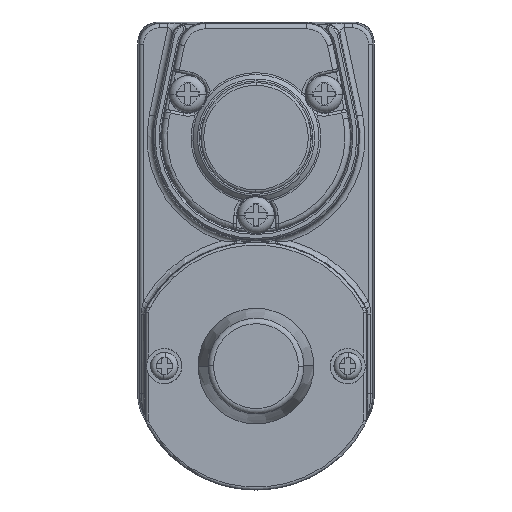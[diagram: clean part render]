
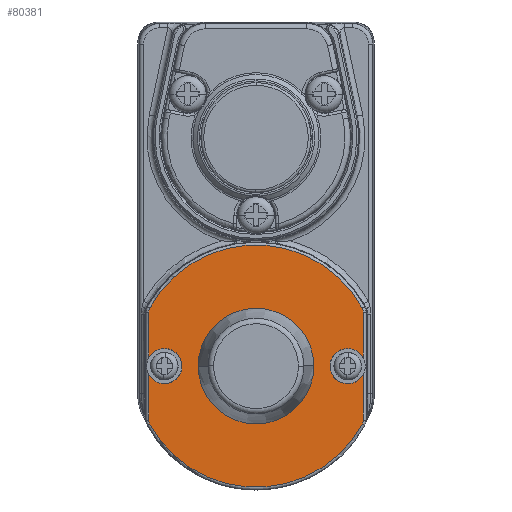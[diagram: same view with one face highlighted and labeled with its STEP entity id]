
A CAD part, left-side view. The second image highlights one B-rep face of the part: STEP entity #80381.
In plain terms, the highlighted planar face has unit normal (-1, 0, 0).
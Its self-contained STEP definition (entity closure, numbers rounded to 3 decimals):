
#78974=CARTESIAN_POINT('',(-4.5,0.5,-20.543));
#78981=DIRECTION('',(0.,0.,1.));
#78982=VECTOR('',#78981,8.354);
#78983=CARTESIAN_POINT('',(-4.5,0.5,-20.543));
#78984=LINE('',#78983,#78982);
#78989=DIRECTION('',(0.,0.,1.));
#78990=VECTOR('',#78989,8.354);
#78991=CARTESIAN_POINT('',(-4.5,0.5,-31.811));
#78992=LINE('',#78991,#78990);
#78993=CARTESIAN_POINT('',(-4.5,36.651,-22.));
#78994=DIRECTION('',(-1.,0.,0.));
#78995=DIRECTION('',(0.,-1.,0.011));
#78996=AXIS2_PLACEMENT_3D('',#78993,#78994,#78995);
#78998=CARTESIAN_POINT('',(-4.5,38.,-12.189));
#78999=DIRECTION('',(1.,0.,0.));
#79000=DIRECTION('',(0.,1.,0.));
#79001=AXIS2_PLACEMENT_3D('',#78998,#78999,#79000);
#79003=CARTESIAN_POINT('',(-4.5,20.,-22.));
#79004=DIRECTION('',(1.,0.,0.));
#79005=DIRECTION('',(0.,0.878,0.479));
#79006=AXIS2_PLACEMENT_3D('',#79003,#79004,#79005);
#79008=CARTESIAN_POINT('',(-4.5,2.,-12.189));
#79009=DIRECTION('',(1.,0.,0.));
#79010=DIRECTION('',(0.,-0.878,0.479));
#79011=AXIS2_PLACEMENT_3D('',#79008,#79009,#79010);
#79013=CARTESIAN_POINT('',(-4.5,3.349,-22.));
#79014=DIRECTION('',(-1.,0.,0.));
#79015=DIRECTION('',(0.,-0.89,0.455));
#79016=AXIS2_PLACEMENT_3D('',#79013,#79014,#79015);
#79018=CARTESIAN_POINT('',(-4.5,3.349,-22.));
#79019=DIRECTION('',(-1.,0.,0.));
#79020=DIRECTION('',(0.,1.,-0.011));
#79021=AXIS2_PLACEMENT_3D('',#79018,#79019,#79020);
#79023=CARTESIAN_POINT('',(-4.5,2.,-31.811));
#79024=DIRECTION('',(1.,0.,0.));
#79025=DIRECTION('',(0.,-1.,0.));
#79026=AXIS2_PLACEMENT_3D('',#79023,#79024,#79025);
#79028=CARTESIAN_POINT('',(-4.5,20.,-22.));
#79029=DIRECTION('',(1.,0.,0.));
#79030=DIRECTION('',(0.,-0.878,-0.479));
#79031=AXIS2_PLACEMENT_3D('',#79028,#79029,#79030);
#79033=CARTESIAN_POINT('',(-4.5,38.,-31.811));
#79034=DIRECTION('',(1.,0.,0.));
#79035=DIRECTION('',(0.,0.878,-0.479));
#79036=AXIS2_PLACEMENT_3D('',#79033,#79034,#79035);
#79038=CARTESIAN_POINT('',(-4.5,36.651,-22.));
#79039=DIRECTION('',(-1.,0.,0.));
#79040=DIRECTION('',(0.,0.89,-0.455));
#79041=AXIS2_PLACEMENT_3D('',#79038,#79039,#79040);
#79043=CARTESIAN_POINT('',(-4.5,20.,-22.));
#79044=DIRECTION('',(-1.,0.,0.));
#79045=DIRECTION('',(0.,-1.,0.011));
#79046=AXIS2_PLACEMENT_3D('',#79043,#79044,#79045);
#79048=CARTESIAN_POINT('',(-4.5,20.,-22.));
#79049=DIRECTION('',(-1.,0.,0.));
#79050=DIRECTION('',(0.,1.,-0.011));
#79051=AXIS2_PLACEMENT_3D('',#79048,#79049,#79050);
#79075=DIRECTION('',(0.,0.,-1.));
#79076=VECTOR('',#79075,8.354);
#79077=CARTESIAN_POINT('',(-4.5,39.5,
-23.457));
#79078=LINE('',#79077,#79076);
#79083=DIRECTION('',(0.,0.,-1.));
#79084=VECTOR('',#79083,8.354);
#79085=CARTESIAN_POINT('',(-4.5,39.5,
-12.189));
#79086=LINE('',#79085,#79084);
#79872=VERTEX_POINT('',#78974);
#79874=CARTESIAN_POINT('',(-4.5,6.549,-22.035));
#79875=VERTEX_POINT('',#79874);
#79876=CARTESIAN_POINT('',(-4.5,0.5,-12.189));
#79877=VERTEX_POINT('',#79876);
#79882=CARTESIAN_POINT('',(-4.5,0.5,-31.811));
#79883=VERTEX_POINT('',#79882);
#79884=CARTESIAN_POINT('',(-4.5,0.5,-23.457));
#79885=VERTEX_POINT('',#79884);
#79886=CARTESIAN_POINT('',(-4.5,33.451,-21.965));
#79887=CARTESIAN_POINT('',(-4.5,39.5,-20.543));
#79888=VERTEX_POINT('',#79886);
#79889=VERTEX_POINT('',#79887);
#79890=CARTESIAN_POINT('',(-4.5,39.5,
-12.189));
#79891=VERTEX_POINT('',#79890);
#79892=CARTESIAN_POINT('',(-4.5,39.317,-11.471));
#79893=VERTEX_POINT('',#79892);
#79894=CARTESIAN_POINT('',(-4.5,0.683,-11.471));
#79895=VERTEX_POINT('',#79894);
#79896=CARTESIAN_POINT('',(-4.5,0.683,-32.529));
#79897=VERTEX_POINT('',#79896);
#79898=CARTESIAN_POINT('',(-4.5,39.317,
-32.529));
#79899=VERTEX_POINT('',#79898);
#79900=CARTESIAN_POINT('',(-4.5,39.5,-31.811));
#79901=VERTEX_POINT('',#79900);
#79902=CARTESIAN_POINT('',(-4.5,39.5,
-23.457));
#79903=VERTEX_POINT('',#79902);
#79904=CARTESIAN_POINT('',(-4.5,9.501,
-21.884));
#79905=CARTESIAN_POINT('',(-4.5,30.499,
-22.116));
#79906=VERTEX_POINT('',#79904);
#79907=VERTEX_POINT('',#79905);
#80343=CARTESIAN_POINT('',(-4.5,20.,-22.));
#80344=DIRECTION('',(1.,0.,0.));
#80345=DIRECTION('',(0.,1.,0.));
#80346=AXIS2_PLACEMENT_3D('',#80343,#80344,#80345);
#80347=PLANE('',#80346);
#80349=ORIENTED_EDGE('',*,*,#80348,.T.);
#80351=ORIENTED_EDGE('',*,*,#80350,.F.);
#80353=ORIENTED_EDGE('',*,*,#80352,.T.);
#80355=ORIENTED_EDGE('',*,*,#80354,.T.);
#80357=ORIENTED_EDGE('',*,*,#80356,.T.);
#80358=ORIENTED_EDGE('',*,*,#80328,.F.);
#80359=ORIENTED_EDGE('',*,*,#80317,.T.);
#80361=ORIENTED_EDGE('',*,*,#80360,.T.);
#80362=ORIENTED_EDGE('',*,*,#80336,.F.);
#80364=ORIENTED_EDGE('',*,*,#80363,.T.);
#80366=ORIENTED_EDGE('',*,*,#80365,.T.);
#80368=ORIENTED_EDGE('',*,*,#80367,.T.);
#80370=ORIENTED_EDGE('',*,*,#80369,.F.);
#80372=ORIENTED_EDGE('',*,*,#80371,.T.);
#80373=EDGE_LOOP('',(#80349,#80351,#80353,#80355,#80357,#80358,#80359,#80361,
#80362,#80364,#80366,#80368,#80370,#80372));
#80374=FACE_OUTER_BOUND('',#80373,.F.);
#80376=ORIENTED_EDGE('',*,*,#80375,.T.);
#80378=ORIENTED_EDGE('',*,*,#80377,.T.);
#80379=EDGE_LOOP('',(#80376,#80378));
#80380=FACE_BOUND('',#80379,.F.);
#80381=ADVANCED_FACE('',(#80374,#80380),#80347,.F.);
#78997=CIRCLE('',#78996,3.2);
#79002=CIRCLE('',#79001,1.5);
#79007=CIRCLE('',#79006,22.);
#79012=CIRCLE('',#79011,1.5);
#79017=CIRCLE('',#79016,3.2);
#79022=CIRCLE('',#79021,3.2);
#79027=CIRCLE('',#79026,1.5);
#79032=CIRCLE('',#79031,22.);
#79037=CIRCLE('',#79036,1.5);
#79042=CIRCLE('',#79041,3.2);
#79047=CIRCLE('',#79046,10.5);
#79052=CIRCLE('',#79051,10.5);
#80317=EDGE_CURVE('',#79872,#79875,#79017,.T.);
#80328=EDGE_CURVE('',#79872,#79877,#78984,.T.);
#80336=EDGE_CURVE('',#79883,#79885,#78992,.T.);
#80348=EDGE_CURVE('',#79888,#79889,#78997,.T.);
#80350=EDGE_CURVE('',#79891,#79889,#79086,.T.);
#80352=EDGE_CURVE('',#79891,#79893,#79002,.T.);
#80354=EDGE_CURVE('',#79893,#79895,#79007,.T.);
#80356=EDGE_CURVE('',#79895,#79877,#79012,.T.);
#80360=EDGE_CURVE('',#79875,#79885,#79022,.T.);
#80363=EDGE_CURVE('',#79883,#79897,#79027,.T.);
#80365=EDGE_CURVE('',#79897,#79899,#79032,.T.);
#80367=EDGE_CURVE('',#79899,#79901,#79037,.T.);
#80369=EDGE_CURVE('',#79903,#79901,#79078,.T.);
#80371=EDGE_CURVE('',#79903,#79888,#79042,.T.);
#80375=EDGE_CURVE('',#79906,#79907,#79047,.T.);
#80377=EDGE_CURVE('',#79907,#79906,#79052,.T.);
